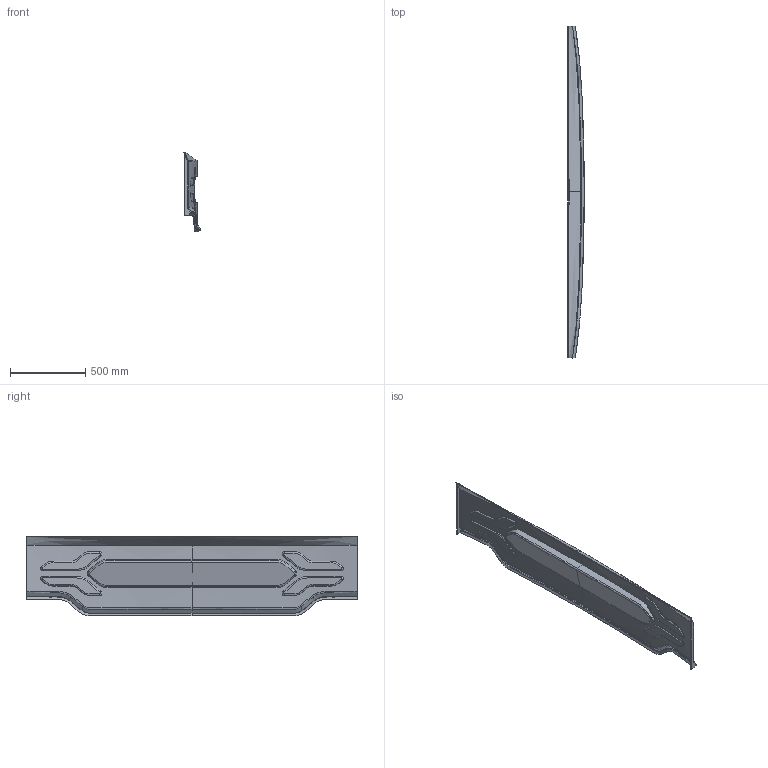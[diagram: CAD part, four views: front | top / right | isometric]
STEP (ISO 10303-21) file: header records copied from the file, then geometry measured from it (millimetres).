
FILE_DESCRIPTION(/* description */ (''),/* implementation_level */ '2;1');
FILE_NAME(/* name */ 'down_bumper_part_1',/* time_stamp */ '2018-02-20T19:11:13+01:00',/* author */ (''),/* organization */ (''),/* preprocessor_version */ 'ST-DEVELOPER v14',/* originating_system */ '',/* authorisation */ '');
FILE_SCHEMA (('CONFIG_CONTROL_DESIGN'));
Length unit declared in the file: millimetre
Products named in the file (1): Document
Bounding box: 110 x 2212 x 533.07 mm (x, y, z)
Surface area: 2639131.8 mm2 (no closed solid volume)
Topology: 0 solids, 1 shells, 218 faces, 599 edges, 374 vertices
Faces by surface type: bspline 204, plane 14
Entity records: 31433 total; most frequent: CARTESIAN_POINT 28145, ORIENTED_EDGE 1134, EDGE_CURVE 577, VERTEX_POINT 361, B_SPLINE_CURVE_WITH_KNOTS 350, EDGE_LOOP 220, ADVANCED_FACE 212, FACE_OUTER_BOUND 212
